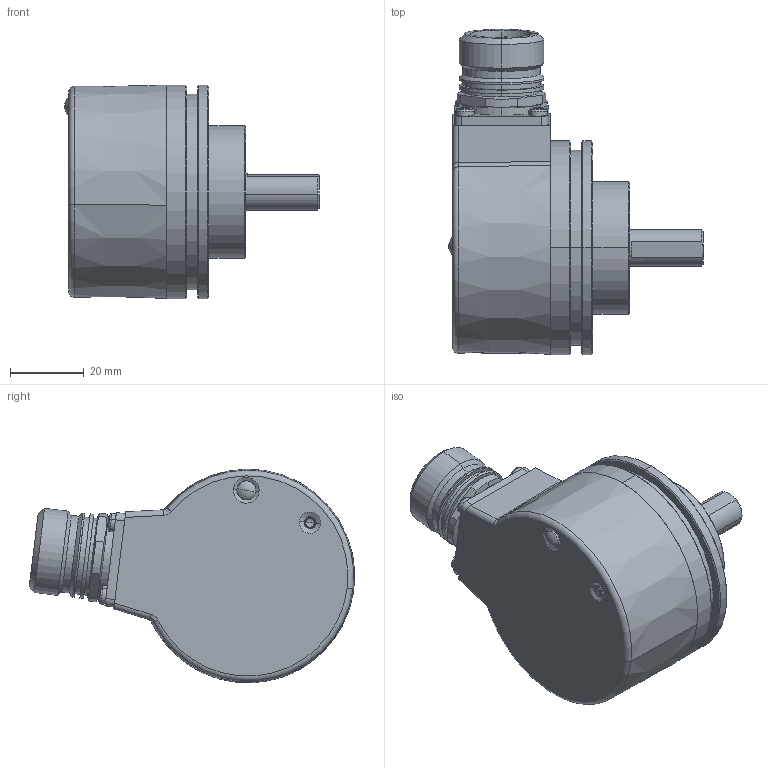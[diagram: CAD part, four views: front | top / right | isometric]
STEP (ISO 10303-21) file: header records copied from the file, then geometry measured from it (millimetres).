
FILE_DESCRIPTION (( 'STEP AP214' ), '1' );
FILE_NAME ('5853SIL.12X4.XXXX.STEP', '2010-07-20T07:53:05', ( 'admin' ), ( 'Fritz Kübler GmbH' ), 'SwSTEP 2.0', 'SolidWorks 2009', '' );
FILE_SCHEMA (( 'AUTOMOTIVE_DESIGN' ));
Length unit declared in the file: millimetre
Products named in the file (1): 5853SIL.12X4.XXXX
Bounding box: 69.12 x 88.28 x 58 mm (x, y, z)
Surface area: 22305.2 mm2 (no closed solid volume)
Topology: 0 solids, 33 shells, 322 faces, 849 edges, 542 vertices
Faces by surface type: cylinder 129, plane 86, cone 45, sphere 36, torus 22, bspline 4
Entity records: 13924 total; most frequent: CARTESIAN_POINT 2204, DIRECTION 1945, ORIENTED_EDGE 1478, EDGE_CURVE 825, AXIS2_PLACEMENT_3D 825, VERTEX_POINT 542, CIRCLE 506, EDGE_LOOP 372
